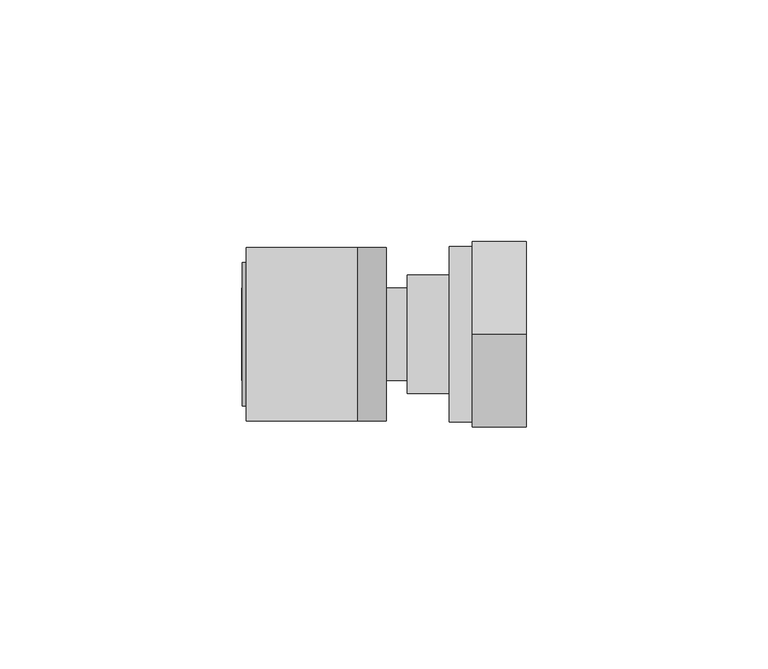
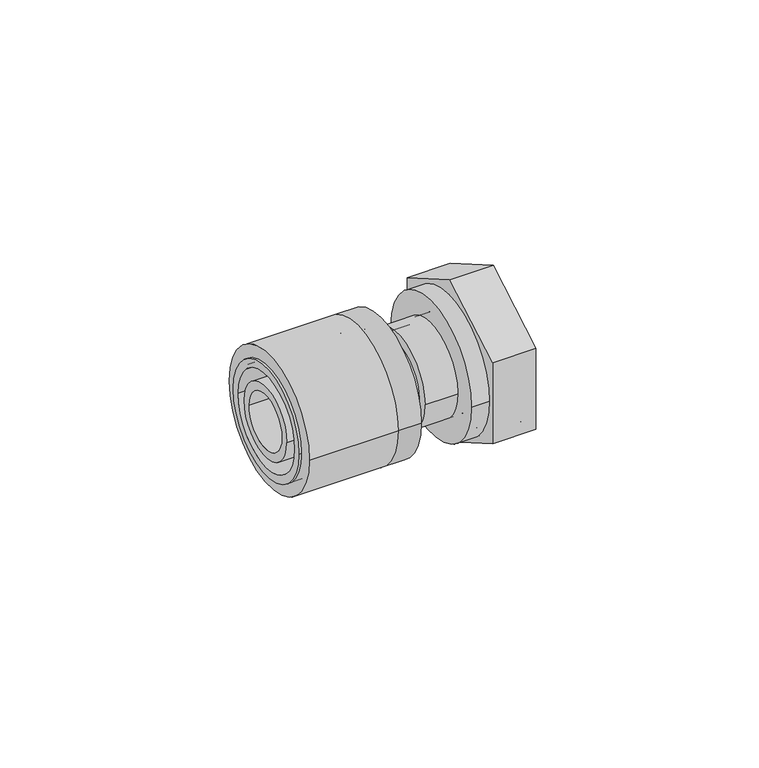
"""IFC4 building model written with IfcOpenShell, lengths in millimetres: pipe fitting geometry, FASTLOC_Adapter with union nut LX : FSL A union nut CZ."""

from ifc_helpers import new_model, si_unit, point, frame, origin, origin_2d, place, context, project, spatial, polyline, circle_curve, trimmed, segment, composite_curve, outline, extrude, source, transform, mapped, element, save
from ifc_brep_helpers import plane_surface, cylinder_surface, revolved_surface, advanced_brep


def pipe_fitting_5bbd4ca1(model_context):
    return source(origin(), model_context, "Body", "SolidModel", [
        extrude(outline(composite_curve([segment(trimmed(circle_curve(origin_2d(), 18.0), [point((18.0, 0.0))], [point((-18.0, 0.0))], False, "CARTESIAN"), True, "CONTINUOUS"), segment(trimmed(circle_curve(origin_2d(), 18.0), [point((-18.0, 0.0))], [point((18.0, 0.0))], False, "CARTESIAN"), True, "CONTINUOUS")], self_intersect=False), holes=[composite_curve([segment(trimmed(circle_curve(origin_2d(), 13.5), [point((13.5, 0.0))], [point((-13.5, 0.0))], True, "CARTESIAN"), True, "CONTINUOUS"), segment(trimmed(circle_curve(origin_2d(), 13.5), [point((-13.5, 0.0))], [point((13.5, 0.0))], True, "CARTESIAN"), True, "CONTINUOUS")], self_intersect=False)]), frame((-33.3, 0.0, 0.0), z_axis=(1.0, 0.0, 0.0), x_axis=(0.0, 1.0, 0.0)), (0.0, 0.0, 1.0), 23.0),
        advanced_brep(
        [(-10.3, -18.0, 0.0), (-10.3, 18.0, 0.0), (-4.3, 18.0, 0.0), (-4.3, -18.0, 0.0), (-34.1, -14.85, 0.0), (-34.1, 14.85, 0.0), (-10.3, 14.85, 0.0), (-10.3, -14.85, 0.0), (-4.3, -12.65, 0.0), (-4.3, 12.65, 0.0), (-34.1, 12.65, 0.0), (-34.1, -12.65, 0.0)],
        [
            (0, 1, circle_curve(frame((-10.3, 0.0, 0.0), z_axis=(1.0, 0.0, 0.0), x_axis=(0.0, 1.0, 0.0)), 18.0)),
            (1, 2),
            (2, 3, circle_curve(frame((-4.3, 0.0, 0.0), z_axis=(-1.0, 0.0, 0.0), x_axis=(0.0, 1.0, 0.0)), 18.0)),
            (3, 0),
            (4, 5, circle_curve(frame((-34.1, 0.0, 0.0), z_axis=(1.0, 0.0, 0.0), x_axis=(0.0, 1.0, 0.0)), 14.85)),
            (5, 6),
            (6, 7, circle_curve(frame((-10.3, 0.0, 0.0), z_axis=(-1.0, 0.0, 0.0), x_axis=(0.0, 1.0, 0.0)), 14.85)),
            (7, 4),
            (8, 9, circle_curve(frame((-4.3, 0.0, 0.0), z_axis=(1.0, 0.0, 0.0), x_axis=(0.0, 1.0, 0.0)), 12.65)),
            (9, 10),
            (10, 11, circle_curve(frame((-34.1, 0.0, 0.0), z_axis=(-1.0, 0.0, 0.0), x_axis=(0.0, 1.0, 0.0)), 12.65)),
            (11, 8),
            (1, 0, circle_curve(frame((-10.3, 0.0, 0.0), z_axis=(1.0, 0.0, 0.0), x_axis=(0.0, -1.0, 0.0)), 18.0)),
            (3, 2, circle_curve(frame((-4.3, 0.0, 0.0), z_axis=(-1.0, 0.0, 0.0), x_axis=(0.0, -1.0, 0.0)), 18.0)),
            (6, 7, circle_curve(frame((-10.3, 0.0, 0.0), z_axis=(1.0, 0.0, 0.0), x_axis=(0.0, -1.0, 0.0)), 14.85)),
            (5, 4, circle_curve(frame((-34.1, 0.0, 0.0), z_axis=(1.0, 0.0, 0.0), x_axis=(0.0, -1.0, 0.0)), 14.85)),
            (10, 11, circle_curve(frame((-34.1, 0.0, 0.0), z_axis=(1.0, 0.0, 0.0), x_axis=(0.0, -1.0, 0.0)), 12.65)),
            (9, 8, circle_curve(frame((-4.3, 0.0, 0.0), z_axis=(1.0, 0.0, 0.0), x_axis=(0.0, -1.0, 0.0)), 12.65)),
        ],
        [
            cylinder_surface(frame((-4.3, 0.0, 0.0), z_axis=(-1.0, 0.0, 0.0), x_axis=(0.0, 1.0, 0.0)), 18.0),
            cylinder_surface(frame((-4.3, 0.0, 0.0), z_axis=(-1.0, 0.0, 0.0), x_axis=(0.0, 1.0, 0.0)), 14.85),
            revolved_surface(polyline([(-34.1, 12.65, 0.0), (-4.3, 12.65, 0.0)]), (-4.3, 0.0, 0.0), (-1.0, 0.0, 0.0)),
            cylinder_surface(frame((-4.3, 0.0, 0.0), z_axis=(-1.0, 0.0, 0.0), x_axis=(0.0, -1.0, 0.0)), 18.0),
            plane_surface(frame((-10.3, 0.0, 0.0), z_axis=(-1.0, 0.0, 0.0), x_axis=(0.0, -1.0, 0.0))),
            cylinder_surface(frame((-4.3, 0.0, 0.0), z_axis=(-1.0, 0.0, 0.0), x_axis=(0.0, -1.0, 0.0)), 14.85),
            plane_surface(frame((-34.1, 0.0, 0.0), z_axis=(-1.0, 0.0, 0.0), x_axis=(0.0, -1.0, 0.0))),
            revolved_surface(polyline([(-34.1, -12.65, 0.0), (-4.3, -12.65, 0.0)]), (-4.3, 0.0, 0.0), (-1.0, 0.0, 0.0)),
            plane_surface(frame((-4.3, 0.0, 0.0), z_axis=(1.0, 0.0, 0.0), x_axis=(0.0, -1.0, 0.0))),
        ],
        [
            (0, [[1, 2, 3, 4]]),
            (1, [[5, 6, 7, 8]]),
            (2, [[9, 10, 11, 12]]),
            (3, [[13, -4, 14, -2]]),
            (4, [[-13, -1], [15, -7]]),
            (5, [[16, -8, -15, -6]]),
            (6, [[-16, -5], [17, -11]]),
            (7, [[18, -12, -17, -10]]),
            (8, [[-14, -3], [-18, -9]]),
        ],
    ),
        advanced_brep(
        [(-10.3, 9.6, 0.0), (-10.3, -9.6, 0.0), (-34.3, -9.6, 0.0), (-34.3, 9.6, 0.0), (-7.5, 11.1, 0.0), (-7.5, -11.1, 0.0), (-10.3, -11.1, 0.0), (-10.3, 11.1, 0.0), (0.0, 9.6, 0.0), (0.0, -9.6, 0.0), (-7.5, -9.6, 0.0), (-7.5, 9.6, 0.0), (-34.3, 7.35, 0.0), (-34.3, -7.35, 0.0), (0.0, -7.35, 0.0), (0.0, 7.35, 0.0)],
        [
            (0, 1, circle_curve(frame((-10.3, 0.0, 0.0), z_axis=(-1.0, 0.0, 0.0), x_axis=(0.0, -1.0, 0.0)), 9.6)),
            (1, 2),
            (2, 3, circle_curve(frame((-34.3, 0.0, 0.0), z_axis=(1.0, 0.0, 0.0), x_axis=(0.0, -1.0, 0.0)), 9.6)),
            (3, 0),
            (4, 5, circle_curve(frame((-7.5, 0.0, 0.0), z_axis=(-1.0, 0.0, 0.0), x_axis=(0.0, -1.0, 0.0)), 11.1)),
            (5, 6),
            (6, 7, circle_curve(frame((-10.3, 0.0, 0.0), z_axis=(1.0, 0.0, 0.0), x_axis=(0.0, -1.0, 0.0)), 11.1)),
            (7, 4),
            (8, 9, circle_curve(frame((0.0, 0.0, 0.0), z_axis=(-1.0, 0.0, 0.0), x_axis=(0.0, -1.0, 0.0)), 9.6)),
            (9, 10),
            (10, 11, circle_curve(frame((-7.5, 0.0, 0.0), z_axis=(1.0, 0.0, 0.0), x_axis=(0.0, -1.0, 0.0)), 9.6)),
            (11, 8),
            (12, 13, circle_curve(frame((-34.3, 0.0, 0.0), z_axis=(-1.0, 0.0, 0.0), x_axis=(0.0, -1.0, 0.0)), 7.35)),
            (13, 14),
            (14, 15, circle_curve(frame((0.0, 0.0, 0.0), z_axis=(1.0, 0.0, 0.0), x_axis=(0.0, -1.0, 0.0)), 7.35)),
            (15, 12),
            (2, 3, circle_curve(frame((-34.3, 0.0, 0.0), z_axis=(-1.0, 0.0, 0.0), x_axis=(0.0, 1.0, 0.0)), 9.6)),
            (12, 13, circle_curve(frame((-34.3, 0.0, 0.0), z_axis=(1.0, 0.0, 0.0), x_axis=(0.0, 1.0, 0.0)), 7.35)),
            (1, 0, circle_curve(frame((-10.3, 0.0, 0.0), z_axis=(-1.0, 0.0, 0.0), x_axis=(0.0, 1.0, 0.0)), 9.6)),
            (6, 7, circle_curve(frame((-10.3, 0.0, 0.0), z_axis=(-1.0, 0.0, 0.0), x_axis=(0.0, 1.0, 0.0)), 11.1)),
            (5, 4, circle_curve(frame((-7.5, 0.0, 0.0), z_axis=(-1.0, 0.0, 0.0), x_axis=(0.0, 1.0, 0.0)), 11.1)),
            (10, 11, circle_curve(frame((-7.5, 0.0, 0.0), z_axis=(-1.0, 0.0, 0.0), x_axis=(0.0, 1.0, 0.0)), 9.6)),
            (9, 8, circle_curve(frame((0.0, 0.0, 0.0), z_axis=(-1.0, 0.0, 0.0), x_axis=(0.0, 1.0, 0.0)), 9.6)),
            (14, 15, circle_curve(frame((0.0, 0.0, 0.0), z_axis=(-1.0, 0.0, 0.0), x_axis=(0.0, 1.0, 0.0)), 7.35)),
        ],
        [
            cylinder_surface(frame((0.0, 0.0, 0.0), z_axis=(1.0, 0.0, 0.0), x_axis=(0.0, -1.0, 0.0)), 9.6),
            cylinder_surface(frame((0.0, 0.0, 0.0), z_axis=(1.0, 0.0, 0.0), x_axis=(0.0, -1.0, 0.0)), 11.1),
            revolved_surface(polyline([(0.0, -7.35, 0.0), (-34.3, -7.35, 0.0)]), (0.0, 0.0, 0.0), (1.0, 0.0, 0.0)),
            plane_surface(frame((-34.3, 0.0, 0.0), z_axis=(-1.0, 0.0, 0.0), x_axis=(0.0, 1.0, 0.0))),
            cylinder_surface(frame((0.0, 0.0, 0.0), z_axis=(1.0, 0.0, 0.0), x_axis=(0.0, 1.0, 0.0)), 9.6),
            plane_surface(frame((-10.3, 0.0, 0.0), z_axis=(-1.0, 0.0, 0.0), x_axis=(0.0, 1.0, 0.0))),
            cylinder_surface(frame((0.0, 0.0, 0.0), z_axis=(1.0, 0.0, 0.0), x_axis=(0.0, 1.0, 0.0)), 11.1),
            plane_surface(frame((-7.5, 0.0, 0.0), z_axis=(1.0, 0.0, 0.0), x_axis=(0.0, 1.0, 0.0))),
            plane_surface(frame((0.0, 0.0, 0.0), z_axis=(1.0, 0.0, 0.0), x_axis=(0.0, 1.0, 0.0))),
            revolved_surface(polyline([(0.0, 7.35, 0.0), (-34.3, 7.35, 0.0)]), (0.0, 0.0, 0.0), (1.0, 0.0, 0.0)),
        ],
        [
            (0, [[1, 2, 3, 4]]),
            (1, [[5, 6, 7, 8]]),
            (0, [[9, 10, 11, 12]]),
            (2, [[13, 14, 15, 16]]),
            (3, [[17, -3], [18, -13]]),
            (4, [[19, -4, -17, -2]]),
            (5, [[20, -7], [-19, -1]]),
            (6, [[21, -8, -20, -6]]),
            (7, [[-21, -5], [22, -11]]),
            (4, [[23, -12, -22, -10]]),
            (8, [[-23, -9], [24, -15]]),
            (9, [[-18, -16, -24, -14]]),
        ],
    ),
        extrude(outline(polyline([(0.0, -22.2279854), (-19.25, -11.1139927), (-19.25, 11.1139927), (0.0, 22.2279854), (19.25, 11.1139927), (19.25, -11.1139927), (0.0, -22.2279854)]), holes=[composite_curve([segment(trimmed(circle_curve(origin_2d(), 15.3), [point((-15.3, 0.0))], [point((15.3, 0.0))], True, "CARTESIAN"), True, "CONTINUOUS"), segment(trimmed(circle_curve(origin_2d(), 15.3), [point((15.3, 0.0))], [point((-15.3, 0.0))], True, "CARTESIAN"), True, "CONTINUOUS")], self_intersect=False)]), frame((13.5, 0.0, 0.0), z_axis=(1.0, 0.0, 0.0), x_axis=(0.0, 1.0, 0.0)), (0.0, 0.0, 1.0), 11.2),
        advanced_brep(
        [(24.7, 18.2, 0.0), (24.7, -18.2, 0.0), (8.7, -18.2, 0.0), (8.7, 18.2, 0.0), (12.2, 15.3, 0.0), (12.2, -15.3, 0.0), (24.7, -15.3, 0.0), (24.7, 15.3, 0.0), (8.7, 11.8, 0.0), (8.7, -11.8, 0.0), (12.2, -11.8, 0.0), (12.2, 11.8, 0.0)],
        [
            (0, 1, circle_curve(frame((24.7, 0.0, 0.0), z_axis=(-1.0, 0.0, 0.0), x_axis=(0.0, -1.0, 0.0)), 18.2)),
            (1, 2),
            (2, 3, circle_curve(frame((8.7, 0.0, 0.0), z_axis=(1.0, 0.0, 0.0), x_axis=(0.0, -1.0, 0.0)), 18.2)),
            (3, 0),
            (4, 5, circle_curve(frame((12.2, 0.0, 0.0), z_axis=(-1.0, 0.0, 0.0), x_axis=(0.0, -1.0, 0.0)), 15.3)),
            (5, 6),
            (6, 7, circle_curve(frame((24.7, 0.0, 0.0), z_axis=(1.0, 0.0, 0.0), x_axis=(0.0, -1.0, 0.0)), 15.3)),
            (7, 4),
            (8, 9, circle_curve(frame((8.7, 0.0, 0.0), z_axis=(-1.0, 0.0, 0.0), x_axis=(0.0, -1.0, 0.0)), 11.8)),
            (9, 10),
            (10, 11, circle_curve(frame((12.2, 0.0, 0.0), z_axis=(1.0, 0.0, 0.0), x_axis=(0.0, -1.0, 0.0)), 11.8)),
            (11, 8),
            (1, 0, circle_curve(frame((24.7, 0.0, 0.0), z_axis=(-1.0, 0.0, 0.0), x_axis=(0.0, 1.0, 0.0)), 18.2)),
            (3, 2, circle_curve(frame((8.7, 0.0, 0.0), z_axis=(1.0, 0.0, 0.0), x_axis=(0.0, 1.0, 0.0)), 18.2)),
            (6, 7, circle_curve(frame((24.7, 0.0, 0.0), z_axis=(-1.0, 0.0, 0.0), x_axis=(0.0, 1.0, 0.0)), 15.3)),
            (5, 4, circle_curve(frame((12.2, 0.0, 0.0), z_axis=(-1.0, 0.0, 0.0), x_axis=(0.0, 1.0, 0.0)), 15.3)),
            (10, 11, circle_curve(frame((12.2, 0.0, 0.0), z_axis=(-1.0, 0.0, 0.0), x_axis=(0.0, 1.0, 0.0)), 11.8)),
            (9, 8, circle_curve(frame((8.7, 0.0, 0.0), z_axis=(-1.0, 0.0, 0.0), x_axis=(0.0, 1.0, 0.0)), 11.8)),
        ],
        [
            cylinder_surface(frame((0.0, 0.0, 0.0), z_axis=(1.0, 0.0, 0.0), x_axis=(0.0, -1.0, 0.0)), 18.2),
            revolved_surface(polyline([(24.7, -15.3, 0.0), (12.2, -15.3, 0.0)]), (0.0, 0.0, 0.0), (1.0, 0.0, 0.0)),
            revolved_surface(polyline([(12.2, -11.8, 0.0), (8.7, -11.8, 0.0)]), (0.0, 0.0, 0.0), (1.0, 0.0, 0.0)),
            cylinder_surface(frame((0.0, 0.0, 0.0), z_axis=(1.0, 0.0, 0.0), x_axis=(0.0, 1.0, 0.0)), 18.2),
            plane_surface(frame((24.7, 0.0, 0.0), z_axis=(1.0, 0.0, 0.0), x_axis=(0.0, 1.0, 0.0))),
            revolved_surface(polyline([(24.7, 15.3, 0.0), (12.2, 15.3, 0.0)]), (0.0, 0.0, 0.0), (1.0, 0.0, 0.0)),
            plane_surface(frame((12.2, 0.0, 0.0), z_axis=(1.0, 0.0, 0.0), x_axis=(0.0, 1.0, 0.0))),
            revolved_surface(polyline([(12.2, 11.8, 0.0), (8.7, 11.8, 0.0)]), (0.0, 0.0, 0.0), (1.0, 0.0, 0.0)),
            plane_surface(frame((8.7, 0.0, 0.0), z_axis=(-1.0, 0.0, 0.0), x_axis=(0.0, 1.0, 0.0))),
        ],
        [
            (0, [[1, 2, 3, 4]]),
            (1, [[5, 6, 7, 8]]),
            (2, [[9, 10, 11, 12]]),
            (3, [[13, -4, 14, -2]]),
            (4, [[-13, -1], [15, -7]]),
            (5, [[16, -8, -15, -6]]),
            (6, [[-16, -5], [17, -11]]),
            (7, [[18, -12, -17, -10]]),
            (8, [[-14, -3], [-18, -9]]),
        ],
    ),
        advanced_brep(
        [(12.0, 12.25, 0.0), (12.0, -12.25, 0.0), (0.0, -12.25, 0.0), (0.0, 12.25, 0.0), (14.0, 16.35, 0.0), (14.0, -16.35, 0.0), (12.0, -16.35, 0.0), (12.0, 16.35, 0.0), (1.4730817, 10.5, 0.0), (1.4730817, -10.5, 0.0), (14.0, -10.5, 0.0), (14.0, 10.5, 0.0), (0.0, 8.3264556, 0.0), (0.0, -8.3264556, 0.0), (1.4730817, -8.3264556, 0.0), (1.4730817, 8.3264556, 0.0)],
        [
            (0, 1, circle_curve(frame((12.0, 0.0, 0.0), z_axis=(-1.0, 0.0, 0.0), x_axis=(0.0, -1.0, 0.0)), 12.25)),
            (1, 2),
            (2, 3, circle_curve(frame((0.0, 0.0, 0.0), z_axis=(1.0, 0.0, 0.0), x_axis=(0.0, -1.0, 0.0)), 12.25)),
            (3, 0),
            (4, 5, circle_curve(frame((14.0, 0.0, 0.0), z_axis=(-1.0, 0.0, 0.0), x_axis=(0.0, -1.0, 0.0)), 16.35)),
            (5, 6),
            (6, 7, circle_curve(frame((12.0, 0.0, 0.0), z_axis=(1.0, 0.0, 0.0), x_axis=(0.0, -1.0, 0.0)), 16.35)),
            (7, 4),
            (8, 9, circle_curve(frame((1.4730817, 0.0, 0.0), z_axis=(-1.0, 0.0, 0.0), x_axis=(0.0, -1.0, 0.0)), 10.5)),
            (9, 10),
            (10, 11, circle_curve(frame((14.0, 0.0, 0.0), z_axis=(1.0, 0.0, 0.0), x_axis=(0.0, -1.0, 0.0)), 10.5)),
            (11, 8),
            (12, 13, circle_curve(frame((0.0, 0.0, 0.0), z_axis=(-1.0, 0.0, 0.0), x_axis=(0.0, -1.0, 0.0)), 8.3264556)),
            (13, 14),
            (14, 15, circle_curve(frame((1.4730817, 0.0, 0.0), z_axis=(1.0, 0.0, 0.0), x_axis=(0.0, -1.0, 0.0)), 8.3264556)),
            (15, 12),
            (2, 3, circle_curve(frame((0.0, 0.0, 0.0), z_axis=(-1.0, 0.0, 0.0), x_axis=(0.0, 1.0, 0.0)), 12.25)),
            (12, 13, circle_curve(frame((0.0, 0.0, 0.0), z_axis=(1.0, 0.0, 0.0), x_axis=(0.0, 1.0, 0.0)), 8.3264556)),
            (1, 0, circle_curve(frame((12.0, 0.0, 0.0), z_axis=(-1.0, 0.0, 0.0), x_axis=(0.0, 1.0, 0.0)), 12.25)),
            (6, 7, circle_curve(frame((12.0, 0.0, 0.0), z_axis=(-1.0, 0.0, 0.0), x_axis=(0.0, 1.0, 0.0)), 16.35)),
            (5, 4, circle_curve(frame((14.0, 0.0, 0.0), z_axis=(-1.0, 0.0, 0.0), x_axis=(0.0, 1.0, 0.0)), 16.35)),
            (10, 11, circle_curve(frame((14.0, 0.0, 0.0), z_axis=(-1.0, 0.0, 0.0), x_axis=(0.0, 1.0, 0.0)), 10.5)),
            (9, 8, circle_curve(frame((1.4730817, 0.0, 0.0), z_axis=(-1.0, 0.0, 0.0), x_axis=(0.0, 1.0, 0.0)), 10.5)),
            (14, 15, circle_curve(frame((1.4730817, 0.0, 0.0), z_axis=(-1.0, 0.0, 0.0), x_axis=(0.0, 1.0, 0.0)), 8.3264556)),
        ],
        [
            cylinder_surface(frame((0.0, 0.0, 0.0), z_axis=(1.0, 0.0, 0.0), x_axis=(0.0, -1.0, 0.0)), 12.25),
            cylinder_surface(frame((0.0, 0.0, 0.0), z_axis=(1.0, 0.0, 0.0), x_axis=(0.0, -1.0, 0.0)), 16.35),
            revolved_surface(polyline([(14.0, -10.5, 0.0), (1.4730817, -10.5, 0.0)]), (0.0, 0.0, 0.0), (1.0, 0.0, 0.0)),
            revolved_surface(polyline([(1.4730817, -8.3264556, 0.0), (0.0, -8.3264556, 0.0)]), (0.0, 0.0, 0.0), (1.0, 0.0, 0.0)),
            plane_surface(frame((0.0, 0.0, 0.0), z_axis=(-1.0, 0.0, 0.0), x_axis=(0.0, 1.0, 0.0))),
            cylinder_surface(frame((0.0, 0.0, 0.0), z_axis=(1.0, 0.0, 0.0), x_axis=(0.0, 1.0, 0.0)), 12.25),
            plane_surface(frame((12.0, 0.0, 0.0), z_axis=(-1.0, 0.0, 0.0), x_axis=(0.0, 1.0, 0.0))),
            cylinder_surface(frame((0.0, 0.0, 0.0), z_axis=(1.0, 0.0, 0.0), x_axis=(0.0, 1.0, 0.0)), 16.35),
            plane_surface(frame((14.0, 0.0, 0.0), z_axis=(1.0, 0.0, 0.0), x_axis=(0.0, 1.0, 0.0))),
            revolved_surface(polyline([(14.0, 10.5, 0.0), (1.4730817, 10.5, 0.0)]), (0.0, 0.0, 0.0), (1.0, 0.0, 0.0)),
            plane_surface(frame((1.4730817, 0.0, 0.0), z_axis=(1.0, 0.0, 0.0), x_axis=(0.0, 1.0, 0.0))),
            revolved_surface(polyline([(1.4730817, 8.3264556, 0.0), (0.0, 8.3264556, 0.0)]), (0.0, 0.0, 0.0), (1.0, 0.0, 0.0)),
        ],
        [
            (0, [[1, 2, 3, 4]]),
            (1, [[5, 6, 7, 8]]),
            (2, [[9, 10, 11, 12]]),
            (3, [[13, 14, 15, 16]]),
            (4, [[17, -3], [18, -13]]),
            (5, [[19, -4, -17, -2]]),
            (6, [[20, -7], [-19, -1]]),
            (7, [[21, -8, -20, -6]]),
            (8, [[-21, -5], [22, -11]]),
            (9, [[23, -12, -22, -10]]),
            (10, [[-23, -9], [24, -15]]),
            (11, [[-18, -16, -24, -14]]),
        ],
    ),
    ])


if __name__ == "__main__":
    model = new_model("IFC4")
    model_context = context("Model", 3, world=origin())
    ifc_project = project(units=[si_unit("LENGTHUNIT", "METRE", prefix="MILLI")], contexts=[model_context])
    site = spatial("IfcSite", under=ifc_project)
    building = spatial("IfcBuilding", under=site)
    placement = place(None, origin())
    pipe_fitting_shape = pipe_fitting_5bbd4ca1(model_context)
    element("IfcPipeFitting", 1, ObjectType="FASTLOC_Adapter with union nut LX : FSL A union nut CZ", at=placement, inside=building, context=model_context, shape_type="MappedRepresentation", body=[
        mapped(pipe_fitting_shape, transform((0.0, 0.0, 0.0), x_axis=(1.0, 0.0, 0.0), y_axis=(0.0, 1.0, 0.0), z_axis=(0.0, 0.0, 1.0))),
    ])
    save(model, "model.ifc")
